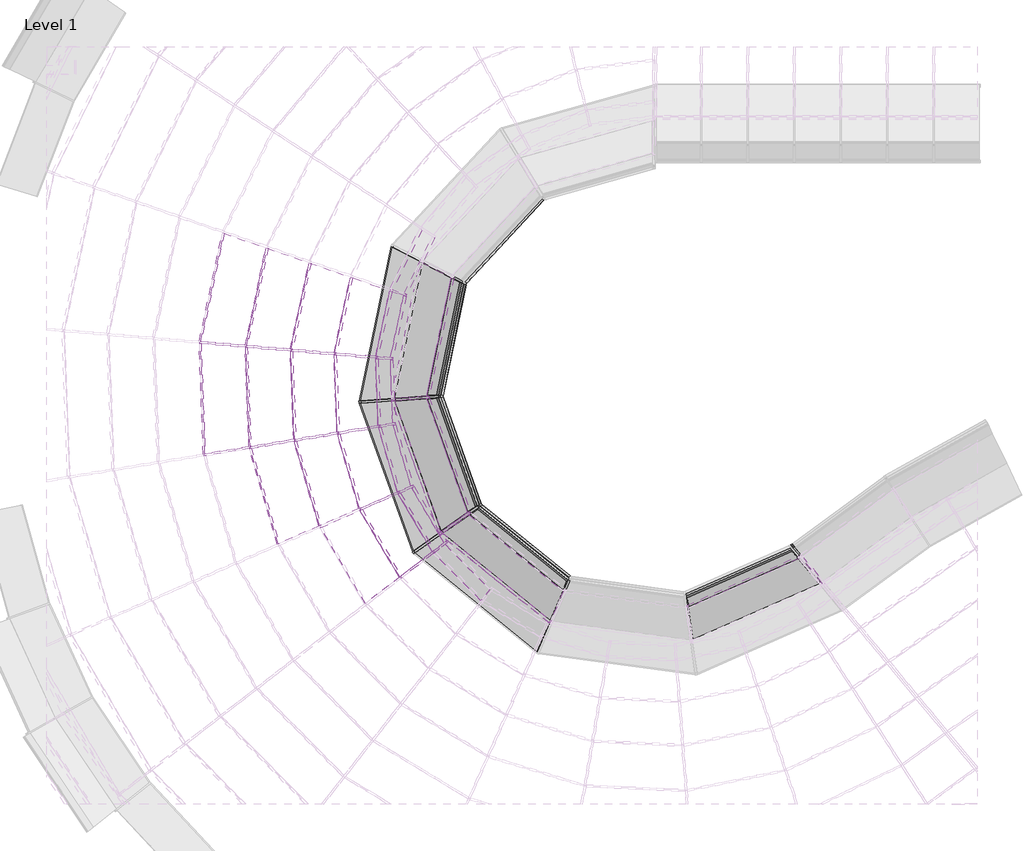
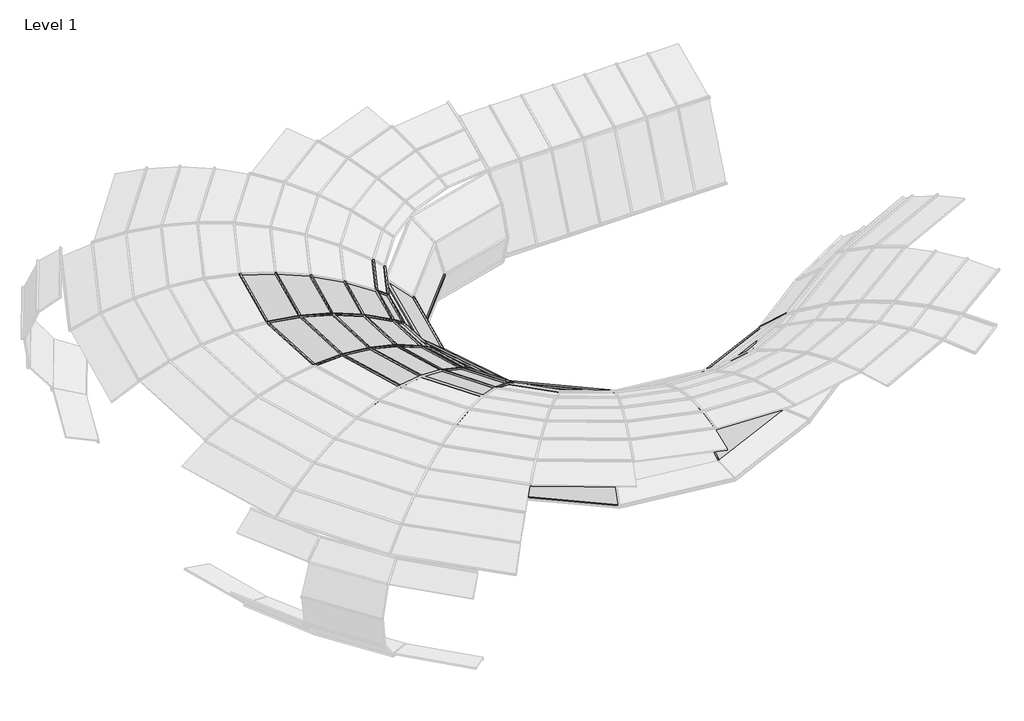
# One storey, part 6 of 23: 68 members, 36 plates.
"""IFC4 building model written with IfcOpenShell, lengths in millimetres."""

from ifc_helpers import new_model, si_unit, origin, place, context, project, spatial, transform, mapped, element, save
from components import member_c876edb5, member_782630c7, member_398e5ff5, member_398607d0, member_5ccaa950, member_8174f0e4, member_18f2ae55, member_299080b6, member_cb0bb3a9, member_172ab1ab, member_54499f2f, member_c8b9029b, member_0cd36c09, member_d0a40a1c, member_ff9adfd2, member_8c9da58c, member_391bee44, member_01ebdf2a, member_d6b8231b, member_c947e835, member_77008461, member_264a49eb, system_panel_glazed_9f229a92, system_panel_glazed_a07c5774, system_panel_glazed_4fd85c75, system_panel_glazed_1256fb3b, system_panel_glazed_de823024, system_panel_glazed_b0e446d2, system_panel_glazed_ac948568, system_panel_glazed_688557e5, system_panel_glazed_4c871569, system_panel_glazed_08c7efc5

model = new_model("IFC4")

# Units and contexts
model_context = context("Model", 3, world=origin())
ifc_project = project(units=[si_unit("LENGTHUNIT", "METRE", prefix="MILLI")], contexts=[model_context])

# Site, building, storey
site = spatial("IfcSite", under=ifc_project)
building = spatial("IfcBuilding", under=site)
storey = spatial("IfcBuildingStorey", under=building, Name="Level 1", Elevation=0.0)

# Members
placement = place(None, origin())
member_shape = member_c876edb5(model_context)
element("IfcMember", 1, ObjectType="Rectangular Mullion : 1\" Square", at=placement, inside=storey, context=model_context, shape_type="MappedRepresentation", body=[
    mapped(member_shape, transform((-14677.9959205, -925.1409597, 2676.0506073), x_axis=(0.9418970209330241, -0.2000671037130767, -0.26982059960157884), y_axis=(0.2639323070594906, -0.056061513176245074, 0.9629106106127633), z_axis=(-0.20777328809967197, -0.9781770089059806, 0.0))),
])
element("IfcMember", 2, ObjectType="Rectangular Mullion : 1\" Square", at=placement, inside=storey, context=model_context, shape_type="MappedRepresentation", body=[
    mapped(member_shape, transform((-14635.9413521, -2105.5336551, 2676.0506073), x_axis=(0.9622064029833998, 0.03681958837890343, -0.26982059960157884), y_axis=(0.2696232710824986, 0.01031734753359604, 0.9629106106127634), z_axis=(0.03823780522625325, -0.9992686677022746, 0.0))),
])
element("IfcMember", 3, ObjectType="Rectangular Mullion : 1\" Square", at=placement, inside=storey, context=model_context, shape_type="MappedRepresentation", body=[
    mapped(member_shape, transform((-14305.9433988, -3239.6398462, 2676.0506073), x_axis=(0.9238536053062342, 0.2714615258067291, -0.2698205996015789), y_axis=(0.2588762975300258, 0.07606719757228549, 0.9629106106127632), z_axis=(0.2819176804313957, -0.9594385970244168, 0.0))),
])
member_2_shape = member_782630c7(model_context)
element("IfcMember", 4, ObjectType="Rectangular Mullion : 1\" Square", at=placement, inside=storey, context=model_context, shape_type="MappedRepresentation", body=[
    mapped(member_2_shape, transform((-14104.2887069, -974.3275091, 2475.91846), x_axis=(0.9040281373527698, -0.19202342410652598, -0.3819163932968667), y_axis=(0.3735818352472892, -0.07935202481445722, 0.9241968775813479), z_axis=(-0.20777328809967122, -0.9781770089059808, 0.0))),
])
element("IfcMember", 5, ObjectType="Rectangular Mullion : 1\" Square", at=placement, inside=storey, context=model_context, shape_type="MappedRepresentation", body=[
    mapped(member_2_shape, transform((-14067.6706277, -2012.6484174, 2475.91846), x_axis=(0.9235209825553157, 0.03533926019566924, -0.3819163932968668), y_axis=(0.3816370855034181, 0.014603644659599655, 0.924196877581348), z_axis=(0.03823780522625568, -0.9992686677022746, 0.0))),
])
element("IfcMember", 6, ObjectType="Rectangular Mullion : 1\" Square", at=placement, inside=storey, context=model_context, shape_type="MappedRepresentation", body=[
    mapped(member_2_shape, transform((-13777.7545362, -3010.3456923, 2475.91846), x_axis=(0.886710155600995, 0.2605474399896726, -0.3819163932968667), y_axis=(0.3664253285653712, 0.10766898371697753, 0.9241968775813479), z_axis=(0.2819176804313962, -0.9594385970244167, 0.0))),
])
element("IfcMember", 7, ObjectType="Rectangular Mullion : 1\" Square", at=placement, inside=storey, context=model_context, shape_type="MappedRepresentation", body=[
    mapped(member_2_shape, transform((-13252.2155485, -3906.5934062, 2475.91846), x_axis=(0.795839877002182, 0.46987100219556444, -0.38191639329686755), y_axis=(0.328873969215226, 0.19417014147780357, 0.9241968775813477), z_axis=(0.5084100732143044, -0.8611150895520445, 0.0))),
])
member_3_shape = member_398e5ff5(model_context)
element("IfcMember", 8, ObjectType="Rectangular Mullion : 1\" Square", at=placement, inside=storey, context=model_context, shape_type="MappedRepresentation", body=[
    mapped(member_3_shape, transform((-13367.598738, -137.81555, 2208.6526723), x_axis=(0.7829440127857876, -0.3848351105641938, -0.48877460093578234), y_axis=(0.4386505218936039, -0.21560688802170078, 0.8724101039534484), z_axis=(-0.4411172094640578, -0.8974495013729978, 0.0))),
])
element("IfcMember", 9, ObjectType="Rectangular Mullion : 1\" Square", at=placement, inside=storey, context=model_context, shape_type="MappedRepresentation", body=[
    mapped(member_3_shape, transform((-13558.4033696, -1021.1287616, 2208.6526723), x_axis=(0.8533715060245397, -0.18126351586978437, -0.4887746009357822), y_axis=(0.4781080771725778, -0.10155430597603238, 0.8724101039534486), z_axis=(-0.20777328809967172, -0.9781770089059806, 0.0))),
])
element("IfcMember", 10, ObjectType="Rectangular Mullion : 1\" Square", at=placement, inside=storey, context=model_context, shape_type="MappedRepresentation", body=[
    mapped(member_3_shape, transform((-13526.9581375, -1924.2676405, 2208.6526723), x_axis=(0.8717720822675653, 0.03335904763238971, -0.4887746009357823), y_axis=(0.48841714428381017, 0.01868966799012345, 0.8724101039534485), z_axis=(0.03823780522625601, -0.9992686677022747, 0.0))),
])
element("IfcMember", 11, ObjectType="Rectangular Mullion : 1\" Square", at=placement, inside=storey, context=model_context, shape_type="MappedRepresentation", body=[
    mapped(member_3_shape, transform((-13275.1801418, -2792.1711363, 2208.6526723), x_axis=(0.8370239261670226, 0.24594783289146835, -0.48877460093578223), y_axis=(0.4689492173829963, 0.13779420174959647, 0.8724101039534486), z_axis=(0.281917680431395, -0.9594385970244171, 0.0))),
])
element("IfcMember", 12, ObjectType="Rectangular Mullion : 1\" Square", at=placement, inside=storey, context=model_context, shape_type="MappedRepresentation", body=[
    mapped(member_3_shape, transform((-12818.4193593, -3571.9263702, 2208.6526723), x_axis=(0.7512455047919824, 0.4435420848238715, -0.48877460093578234), y_axis=(0.42089118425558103, 0.24849793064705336, 0.8724101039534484), z_axis=(0.5084100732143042, -0.8611150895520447, 0.0))),
])
member_4_shape = member_398607d0(model_context)
element("IfcMember", 13, ObjectType="Rectangular Mullion : 1\" Square", at=placement, inside=storey, context=model_context, shape_type="MappedRepresentation", body=[
    mapped(member_4_shape, transform((-15875.9493243, -822.4349228, 2864.5209769), x_axis=(0.9775369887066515, -0.20763734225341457, -0.03616863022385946), y_axis=(0.03537932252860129, -0.007514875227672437, 0.9993457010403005), z_axis=(-0.2077732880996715, -0.9781770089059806, 0.0))),
])
element("IfcMember", 14, ObjectType="Rectangular Mullion : 1\" Square", at=placement, inside=storey, context=model_context, shape_type="MappedRepresentation", body=[
    mapped(member_4_shape, transform((-15822.5428667, -2299.4865703, 2864.5209769), x_axis=(0.9986148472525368, 0.0382127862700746, -0.03616863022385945), y_axis=(0.03614217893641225, 0.001383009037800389, 0.9993457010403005), z_axis=(0.03823780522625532, -0.9992686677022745, 0.0))),
])
member_5_shape = member_5ccaa950(model_context)
element("IfcMember", 15, ObjectType="Rectangular Mullion : 1\" Square", at=placement, inside=storey, context=model_context, shape_type="MappedRepresentation", body=[
    mapped(member_5_shape, transform((-15271.3632702, -874.2688567, 2806.2019711), x_axis=(0.9665017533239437, -0.20529336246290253, -0.15404218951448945), y_axis=(0.1506805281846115, -0.03200585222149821, 0.9880642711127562), z_axis=(-0.20777328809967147, -0.9781770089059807, 0.0))),
])
element("IfcMember", 16, ObjectType="Rectangular Mullion : 1\" Square", at=placement, inside=storey, context=model_context, shape_type="MappedRepresentation", body=[
    mapped(member_5_shape, transform((-15223.6859117, -2201.6019386, 2806.2019711), x_axis=(0.987341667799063, 0.037781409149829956, -0.15404218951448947), y_axis=(0.1539295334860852, 0.005890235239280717, 0.9880642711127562), z_axis=(0.03823780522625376, -0.9992686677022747, 0.0))),
])
element("IfcMember", 17, ObjectType="Rectangular Mullion : 1\" Square", at=placement, inside=storey, context=model_context, shape_type="MappedRepresentation", body=[
    mapped(member_5_shape, transform((-14852.2325478, -3476.791587, 2806.2019711), x_axis=(0.9479869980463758, 0.2785527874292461, -0.15404218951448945), y_axis=(0.1477940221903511, 0.04342721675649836, 0.9880642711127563), z_axis=(0.2819176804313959, -0.9594385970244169, 0.0))),
])
member_6_shape = member_8174f0e4(model_context)
element("IfcMember", 18, ObjectType="Rectangular Mullion : 1\" Square", at=placement, inside=storey, context=model_context, shape_type="MappedRepresentation", body=[
    mapped(member_6_shape, transform((-13172.3085476, -205.3780141, 2085.6089632), x_axis=(0.7695498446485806, -0.3782515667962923, -0.5145082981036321), y_axis=(0.4617452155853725, -0.22695846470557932, 0.8574853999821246), z_axis=(-0.4411172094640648, -0.8974495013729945, 0.0))),
])
element("IfcMember", 19, ObjectType="Rectangular Mullion : 1\" Square", at=placement, inside=storey, context=model_context, shape_type="MappedRepresentation", body=[
    mapped(member_6_shape, transform((-13352.5117699, -1038.7807922, 2085.6089632), x_axis=(0.8387725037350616, -0.1781625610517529, -0.5145082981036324), y_axis=(0.5032801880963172, -0.10690108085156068, 0.8574853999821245), z_axis=(-0.20777328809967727, -0.9781770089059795, 0.0))),
])
element("IfcMember", 20, ObjectType="Rectangular Mullion : 1\" Square", at=placement, inside=storey, context=model_context, shape_type="MappedRepresentation", body=[
    mapped(member_6_shape, transform((-13323.0175809, -1890.9330585, 2085.6089632), x_axis=(0.8568582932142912, 0.03278835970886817, -0.5145082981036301), y_axis=(0.5141320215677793, 0.01967366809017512, 0.8574853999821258), z_axis=(0.038237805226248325, -0.9992686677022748, 0.0))),
])
element("IfcMember", 21, ObjectType="Rectangular Mullion : 1\" Square", at=placement, inside=storey, context=model_context, shape_type="MappedRepresentation", body=[
    mapped(member_6_shape, transform((-13085.6241327, -2709.8822283, 2085.6089632), x_axis=(0.8227045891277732, 0.24174029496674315, -0.5145082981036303), y_axis=(0.49363911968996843, 0.14504898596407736, 0.8574853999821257), z_axis=(0.28191768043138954, -0.9594385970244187, 0.0))),
])
element("IfcMember", 22, ObjectType="Rectangular Mullion : 1\" Square", at=placement, inside=storey, context=model_context, shape_type="MappedRepresentation", body=[
    mapped(member_6_shape, transform((-12654.8044292, -3445.6999877, 2085.6089632), x_axis=(0.7383936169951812, 0.43595421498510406, -0.5145082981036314), y_axis=(0.44305085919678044, 0.26158120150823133, 0.857485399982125), z_axis=(0.5084100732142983, -0.861115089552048, 0.0))),
])
member_7_shape = member_18f2ae55(model_context)
element("IfcMember", 23, ObjectType="Rectangular Mullion : 1\" Square", at=placement, inside=storey, context=model_context, shape_type="MappedRepresentation", body=[
    mapped(member_7_shape, transform((-12352.1152218, -3061.8737136, 1696.6281859), x_axis=(0.5394330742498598, 0.1929929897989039, -0.8196131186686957), y_axis=(0.771710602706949, 0.27609492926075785, 0.5729173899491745), z_axis=(0.33686006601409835, -0.9415547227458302, 0.0))),
])
element("IfcMember", 24, ObjectType="Rectangular Mullion : 1\" Square", at=placement, inside=storey, context=model_context, shape_type="MappedRepresentation", body=[
    mapped(member_7_shape, transform((-8030.7687332, -3659.3363187, 1696.6281859), x_axis=(-0.23030109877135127, 0.5245910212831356, -0.8196131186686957), y_axis=(-0.32946774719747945, 0.7504776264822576, 0.5729173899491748), z_axis=(0.9156486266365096, 0.4019795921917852, 0.0))),
])
element("IfcMember", 25, ObjectType="Rectangular Mullion : 1\" Square", at=placement, inside=storey, context=model_context, shape_type="MappedRepresentation", body=[
    mapped(member_7_shape, transform((-12888.5133297, -1542.9836549, 1696.6281859), x_axis=(0.5611087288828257, -0.11572091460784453, -0.8196131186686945), y_axis=(0.8027196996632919, -0.16554983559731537, 0.5729173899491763), z_axis=(-0.2019853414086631, -0.9793885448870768, 0.0))),
])
member_8_shape = member_299080b6(model_context)
element("IfcMember", 26, ObjectType="Rectangular Mullion : 1\" Square", at=placement, inside=storey, context=model_context, shape_type="MappedRepresentation", body=[
    mapped(member_8_shape, transform((-12391.173045, -52.2187002, 1116.1918244), x_axis=(0.020016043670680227, -0.018659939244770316, -0.9996255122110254), y_axis=(0.7311768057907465, -0.6816389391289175, 0.027364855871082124), z_axis=(-0.6818943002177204, -0.7314507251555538, 0.0))),
])
element("IfcMember", 27, ObjectType="Rectangular Mullion : 1\" Square", at=placement, inside=storey, context=model_context, shape_type="MappedRepresentation", body=[
    mapped(member_8_shape, transform((-12702.6759388, -1529.9354992, 1116.1918244), x_axis=(0.026800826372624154, -0.005527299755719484, -0.9996255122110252), y_axis=(0.9790217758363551, -0.20190970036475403, 0.027364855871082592), z_axis=(-0.20198534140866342, -0.9793885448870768, 0.0))),
])
element("IfcMember", 28, ObjectType="Rectangular Mullion : 1\" Square", at=placement, inside=storey, context=model_context, shape_type="MappedRepresentation", body=[
    mapped(member_8_shape, transform((-12200.1764927, -2954.0756951, 1116.1918244), x_axis=(0.025765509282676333, 0.009218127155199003, -0.9996255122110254), y_axis=(0.9412021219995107, 0.33673391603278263, 0.02736485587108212), z_axis=(0.3368600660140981, -0.9415547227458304, 0.0))),
])
element("IfcMember", 29, ObjectType="Rectangular Mullion : 1\" Square", at=placement, inside=storey, context=model_context, shape_type="MappedRepresentation", body=[
    mapped(member_8_shape, transform((-11030.296895, -3909.0954425, 1116.1918244), x_axis=(0.017212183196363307, 0.02127383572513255, -0.9996255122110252), y_axis=(0.6287530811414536, 0.7771233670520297, 0.02736485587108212), z_axis=(0.7774144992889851, -0.6289886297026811, 0.0))),
])
member_9_shape = member_cb0bb3a9(model_context)
element("IfcMember", 30, ObjectType="Rectangular Mullion : 1\" Square", at=placement, inside=storey, context=model_context, shape_type="MappedRepresentation", body=[
    mapped(member_9_shape, transform((-13304.6485568, -1572.2016569, 113.4427618), x_axis=(-0.8822854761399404, 0.181959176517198, -0.4341234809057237), y_axis=(0.42517556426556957, -0.08768657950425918, -0.9008533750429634), z_axis=(-0.20198534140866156, -0.9793885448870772, 0.0))),
])
element("IfcMember", 31, ObjectType="Rectangular Mullion : 1\" Square", at=placement, inside=storey, context=model_context, shape_type="MappedRepresentation", body=[
    mapped(member_9_shape, transform((-12692.3430806, -3303.2597593, 113.4427618), x_axis=(-0.8482027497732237, -0.3034615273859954, -0.434123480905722), y_axis=(0.40875101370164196, 0.14623886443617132, -0.9008533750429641), z_axis=(0.3368600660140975, -0.9415547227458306, 0.0))),
])
member_10_shape = member_172ab1ab(model_context)
element("IfcMember", 32, ObjectType="Rectangular Mullion : 1\" Square", at=placement, inside=storey, context=model_context, shape_type="MappedRepresentation", body=[
    mapped(member_10_shape, transform((-13787.0408851, -1606.0717526, 0.0), x_axis=(-0.9515524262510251, 0.1962445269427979, -0.23671938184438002), y_axis=(0.2318402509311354, -0.047813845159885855, -0.9715780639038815), z_axis=(-0.2019853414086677, -0.9793885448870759, 0.0))),
])
element("IfcMember", 33, ObjectType="Rectangular Mullion : 1\" Square", at=placement, inside=storey, context=model_context, shape_type="MappedRepresentation", body=[
    mapped(member_10_shape, transform((-13086.74206, -3583.0793202, 0.0), x_axis=(-0.9147939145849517, -0.3272858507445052, -0.23671938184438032), y_axis=(0.22288425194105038, 0.07974130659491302, -0.9715780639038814), z_axis=(0.3368600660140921, -0.9415547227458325, 0.0))),
])
member_11_shape = member_54499f2f(model_context)
element("IfcMember", 34, ObjectType="Rectangular Mullion : 1\" Square", at=placement, inside=storey, context=model_context, shape_type="MappedRepresentation", body=[
    mapped(member_11_shape, transform((-12857.6188357, -1540.8144673, 526.7119632), x_axis=(-0.5173007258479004, 0.10668611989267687, -0.8491278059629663), y_axis=(0.8316260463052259, -0.17151136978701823, -0.5281874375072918), z_axis=(-0.20198534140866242, -0.979388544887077, 0.0))),
])
element("IfcMember", 35, ObjectType="Rectangular Mullion : 1\" Square", at=placement, inside=storey, context=model_context, shape_type="MappedRepresentation", body=[
    mapped(member_11_shape, transform((-12326.856203, -3043.952857, 526.7119632), x_axis=(-0.4973173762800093, -0.17792525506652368, -0.8491278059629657), y_axis=(0.7995002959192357, 0.2860372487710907, -0.5281874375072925), z_axis=(0.33686006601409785, -0.9415547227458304, 0.0))),
])
member_12_shape = member_c8b9029b(model_context)
element("IfcMember", 36, ObjectType="Rectangular Mullion : 1\" Square", at=placement, inside=storey, context=model_context, shape_type="MappedRepresentation", body=[
    mapped(member_12_shape, transform((-13355.015511, -1600.2543072, 2085.6089632), x_axis=(-0.7136183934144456, -0.25531127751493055, 0.6523533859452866), y_axis=(0.614226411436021, 0.21975180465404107, 0.7579149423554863), z_axis=(-0.336860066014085, 0.9415547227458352, 0.0))),
])
element("IfcMember", 37, ObjectType="Rectangular Mullion : 1\" Square", at=placement, inside=storey, context=model_context, shape_type="MappedRepresentation", body=[
    mapped(member_12_shape, transform((-12720.7717512, -3353.4154364, 2085.6089632), x_axis=(-0.47671988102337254, -0.5892140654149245, 0.6523533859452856), y_axis=(0.4103228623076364, 0.5071489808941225, 0.7579149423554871), z_axis=(-0.7774144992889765, 0.628988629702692, 0.0))),
])
member_13_shape = member_0cd36c09(model_context)
element("IfcMember", 38, ObjectType="Rectangular Mullion : 1\" Square", at=placement, inside=storey, context=model_context, shape_type="MappedRepresentation", body=[
    mapped(member_13_shape, transform((-15878.5880451, -834.8577708, 2864.5209769), x_axis=(-0.08542121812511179, -0.9963449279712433, 0.0), y_axis=(0.09531798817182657, -0.008172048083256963, 0.9954133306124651), z_axis=(-0.991775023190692, 0.0850294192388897, 0.09566766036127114))),
])
element("IfcMember", 39, ObjectType="Rectangular Mullion : 1\" Square", at=placement, inside=storey, context=model_context, shape_type="MappedRepresentation", body=[
    mapped(member_13_shape, transform((-15274.0019909, -886.6917047, 2806.2019711), x_axis=(-0.08542121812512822, -0.996344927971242, 0.0), y_axis=(0.21272252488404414, -0.018237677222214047, 0.9769424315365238), z_axis=(-0.9733716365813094, 0.08345161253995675, 0.21350289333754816))),
])
element("IfcMember", 40, ObjectType="Rectangular Mullion : 1\" Square", at=placement, inside=storey, context=model_context, shape_type="MappedRepresentation", body=[
    mapped(member_13_shape, transform((-14680.6346413, -937.5638077, 2676.0506073), x_axis=(-0.0854212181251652, -0.9963449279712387, 0.0), y_axis=(0.3271008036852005, -0.028043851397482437, 0.9445732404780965), z_axis=(-0.9411207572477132, 0.08068659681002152, 0.3283007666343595))),
])
element("IfcMember", 41, ObjectType="Rectangular Mullion : 1\" Square", at=placement, inside=storey, context=model_context, shape_type="MappedRepresentation", body=[
    mapped(member_13_shape, transform((-15223.2002916, -2214.2926507, 2806.2019711), x_axis=(0.16131178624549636, -0.9869034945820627, 0.0), y_axis=(0.21070675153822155, 0.03444053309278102, 0.9769424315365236), z_axis=(-0.9641478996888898, -0.1575923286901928, 0.2135028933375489))),
])
element("IfcMember", 42, ObjectType="Rectangular Mullion : 1\" Square", at=placement, inside=storey, context=model_context, shape_type="MappedRepresentation", body=[
    mapped(member_13_shape, transform((-14635.455732, -2118.2243671, 2676.0506073), x_axis=(0.16131178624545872, -0.9869034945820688, 0.0), y_axis=(0.3240011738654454, 0.05295878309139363, 0.9445732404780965), z_axis=(-0.9322026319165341, -0.15237079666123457, 0.32830076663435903))),
])
member_14_shape = member_d0a40a1c(model_context)
element("IfcMember", 43, ObjectType="Rectangular Mullion : 1\" Square", at=placement, inside=storey, context=model_context, shape_type="MappedRepresentation", body=[
    mapped(member_14_shape, transform((-14106.9274277, -986.7503571, 2475.91846), x_axis=(-0.08542121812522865, -0.9963449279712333, 0.0), y_axis=(0.43682564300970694, -0.03745106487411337, 0.8987662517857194), z_axis=(-0.895481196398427, 0.07677370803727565, 0.4384281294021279))),
])
element("IfcMember", 44, ObjectType="Rectangular Mullion : 1\" Square", at=placement, inside=storey, context=model_context, shape_type="MappedRepresentation", body=[
    mapped(member_14_shape, transform((-14067.1850075, -2025.3391295, 2475.91846), x_axis=(0.16131178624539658, -0.9869034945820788, 0.0), y_axis=(0.43268625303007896, 0.07072362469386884, 0.8987662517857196), z_axis=(-0.8869955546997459, -0.14498158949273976, 0.4384281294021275))),
])
element("IfcMember", 45, ObjectType="Rectangular Mullion : 1\" Square", at=placement, inside=storey, context=model_context, shape_type="MappedRepresentation", body=[
    mapped(member_14_shape, transform((-13774.1741816, -3022.5305624, 2475.91846), x_axis=(0.39821020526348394, -0.9172941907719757, 0.0), y_axis=(0.4021675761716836, 0.1745865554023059, 0.8987662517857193), z_axis=(-0.8244330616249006, -0.3578978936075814, 0.4384281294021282))),
])
element("IfcMember", 46, ObjectType="Rectangular Mullion : 1\" Square", at=placement, inside=storey, context=model_context, shape_type="MappedRepresentation", body=[
    mapped(member_14_shape, transform((-13245.7587406, -3917.5295678, 2475.91846), x_axis=(0.6108312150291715, -0.7917608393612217, 0.0), y_axis=(0.3471302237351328, 0.2678055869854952, 0.8987662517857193), z_axis=(-0.7116079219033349, -0.5489944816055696, 0.4384281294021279))),
])
member_15_shape = member_ff9adfd2(model_context)
element("IfcMember", 47, ObjectType="Rectangular Mullion : 1\" Square", at=placement, inside=storey, context=model_context, shape_type="MappedRepresentation", body=[
    mapped(member_15_shape, transform((-13373.2009265, -149.2131586, 2208.6526723), x_axis=(-0.32694640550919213, -0.9450428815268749, 0.0), y_axis=(0.48348906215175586, -0.16726755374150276, 0.8592205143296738), z_axis=(-0.8120002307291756, 0.2809190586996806, 0.5116054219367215))),
])
element("IfcMember", 48, ObjectType="Rectangular Mullion : 1\" Square", at=placement, inside=storey, context=model_context, shape_type="MappedRepresentation", body=[
    mapped(member_15_shape, transform((-13561.0420903, -1033.5516096, 2208.6526723), x_axis=(-0.08542121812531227, -0.9963449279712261, 0.0), y_axis=(0.5097354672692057, -0.043701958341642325, 0.8592205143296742), z_axis=(-0.8560800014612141, 0.07339566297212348, 0.5116054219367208))),
])
element("IfcMember", 49, ObjectType="Rectangular Mullion : 1\" Square", at=placement, inside=storey, context=model_context, shape_type="MappedRepresentation", body=[
    mapped(member_15_shape, transform((-13526.4725174, -1936.9583525, 2208.6526723), x_axis=(0.16131178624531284, -0.9869034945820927, 0.0), y_axis=(0.5049051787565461, 0.08252798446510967, 0.8592205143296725), z_axis=(-0.8479677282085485, -0.13860239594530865, 0.5116054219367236))),
])
element("IfcMember", 50, ObjectType="Rectangular Mullion : 1\" Square", at=placement, inside=storey, context=model_context, shape_type="MappedRepresentation", body=[
    mapped(member_15_shape, transform((-13271.5997873, -2804.3560065, 2208.6526723), x_axis=(0.39821020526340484, -0.9172941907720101, 0.0), y_axis=(0.4692926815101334, 0.20372650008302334, 0.8592205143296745), z_axis=(-0.7881579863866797, -0.34215037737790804, 0.5116054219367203))),
])
element("IfcMember", 51, ObjectType="Rectangular Mullion : 1\" Square", at=placement, inside=storey, context=model_context, shape_type="MappedRepresentation", body=[
    mapped(member_15_shape, transform((-12811.9625514, -3582.8625318, 2208.6526723), x_axis=(0.6108312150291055, -0.7917608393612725, 0.0), y_axis=(0.405069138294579, 0.3125045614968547, 0.8592205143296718), z_axis=(-0.6802971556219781, -0.5248387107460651, 0.5116054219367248))),
])
element("IfcMember", 52, ObjectType="Rectangular Mullion : 1\" Square", at=placement, inside=storey, context=model_context, shape_type="MappedRepresentation", body=[
    mapped(member_13_shape, transform((-15822.0572465, -2312.1772824, 2864.5209769), x_axis=(0.1613117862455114, -0.9869034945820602, 0.0), y_axis=(0.09441474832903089, 0.015432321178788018, 0.995413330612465), z_axis=(-0.9823768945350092, -0.16057190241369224, 0.09566766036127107))),
])
member_16_shape = member_8c9da58c(model_context)
element("IfcMember", 53, ObjectType="Rectangular Mullion : 1\" Square", at=placement, inside=storey, context=model_context, shape_type="MappedRepresentation", body=[
    mapped(member_16_shape, transform((-12399.8331026, -61.5081244, 1116.1918244), x_axis=(-0.45899792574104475, -0.888437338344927, 0.0), y_axis=(0.8591140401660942, -0.4438484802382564, -0.254797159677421), z_axis=(0.22637131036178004, -0.11695136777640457, 0.9669945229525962))),
])
element("IfcMember", 54, ObjectType="Rectangular Mullion : 1\" Square", at=placement, inside=storey, context=model_context, shape_type="MappedRepresentation", body=[
    mapped(member_16_shape, transform((-12891.0785435, -1555.4218894, 1696.6281859), x_axis=(0.070040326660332, -0.9975441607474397, 0.0), y_axis=(0.9498210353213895, 0.06668955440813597, 0.30560187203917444), z_axis=(-0.30485136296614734, -0.02140445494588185, 0.952159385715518))),
])
element("IfcMember", 55, ObjectType="Rectangular Mullion : 1\" Square", at=placement, inside=storey, context=model_context, shape_type="MappedRepresentation", body=[
    mapped(member_16_shape, transform((-12705.2411526, -1542.3737337, 1116.1918244), x_axis=(0.07004032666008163, -0.9975441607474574, 0.0), y_axis=(0.9646197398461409, 0.06772861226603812, -0.25479715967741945), z_axis=(0.2541714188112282, 0.01784607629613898, 0.9669945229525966))),
])
element("IfcMember", 56, ObjectType="Rectangular Mullion : 1\" Square", at=placement, inside=storey, context=model_context, shape_type="MappedRepresentation", body=[
    mapped(member_16_shape, transform((-12347.837099, -3073.8314586, 1696.6281859), x_axis=(0.578641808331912, -0.8155817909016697, 0.0), y_axis=(0.7765638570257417, 0.5509592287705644, 0.3056018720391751), z_axis=(-0.249243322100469, -0.17683401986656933, 0.9521593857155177))),
])
element("IfcMember", 57, ObjectType="Rectangular Mullion : 1\" Square", at=placement, inside=storey, context=model_context, shape_type="MappedRepresentation", body=[
    mapped(member_16_shape, transform((-12195.8983698, -2966.03344, 1116.1918244), x_axis=(0.5786418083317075, -0.8155817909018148, 0.0), y_axis=(0.7886631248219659, 0.5595434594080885, -0.2547971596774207), z_axis=(0.20780792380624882, 0.14743628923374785, 0.9669945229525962))),
])
element("IfcMember", 58, ObjectType="Rectangular Mullion : 1\" Square", at=placement, inside=storey, context=model_context, shape_type="MappedRepresentation", body=[
    mapped(member_16_shape, transform((-11020.4237309, -3917.0835981, 1116.1918244), x_axis=(0.9184038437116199, -0.39564425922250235, 0.0), y_axis=(0.3825858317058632, 0.8880914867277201, -0.25479715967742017), z_axis=(0.10080903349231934, 0.23400669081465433, 0.9669945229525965))),
])
member_17_shape = member_391bee44(model_context)
element("IfcMember", 59, ObjectType="Rectangular Mullion : 1\" Square", at=placement, inside=storey, context=model_context, shape_type="MappedRepresentation", body=[
    mapped(member_17_shape, transform((-8038.7859914, -3630.2893738, 526.7119632), x_axis=(0.7730505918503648, 0.6343443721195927, 0.0), y_axis=(-0.4300442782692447, 0.5240780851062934, -0.7351218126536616), z_axis=(-0.4663203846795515, 0.568286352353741, 0.6779350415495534))),
])
element("IfcMember", 60, ObjectType="Rectangular Mullion : 1\" Square", at=placement, inside=storey, context=model_context, shape_type="MappedRepresentation", body=[
    mapped(member_17_shape, transform((-12860.1840496, -1553.2527018, 526.7119632), x_axis=(0.07004032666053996, -0.9975441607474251, 0.0), y_axis=(0.6762701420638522, 0.047482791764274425, -0.7351218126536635), z_axis=(0.7333164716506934, 0.05148817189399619, 0.6779350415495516))),
])
element("IfcMember", 61, ObjectType="Rectangular Mullion : 1\" Square", at=placement, inside=storey, context=model_context, shape_type="MappedRepresentation", body=[
    mapped(member_17_shape, transform((-12322.5780802, -3055.910602, 526.7119632), x_axis=(0.5786418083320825, -0.8155817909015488, 0.0), y_axis=(0.5529114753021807, 0.3922815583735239, -0.7351218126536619), z_axis=(0.599551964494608, 0.4253722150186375, 0.6779350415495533))),
])
member_18_shape = member_01ebdf2a(model_context)
element("IfcMember", 62, ObjectType="Rectangular Mullion : 1\" Square", at=placement, inside=storey, context=model_context, shape_type="MappedRepresentation", body=[
    mapped(member_18_shape, transform((-13307.2137707, -1584.6398914, 113.4427618), x_axis=(0.07004032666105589, -0.9975441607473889, 0.0), y_axis=(0.22782836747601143, 0.015996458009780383, -0.9735698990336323), z_axis=(0.9711789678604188, 0.06818915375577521, 0.22838925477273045))),
])
element("IfcMember", 63, ObjectType="Rectangular Mullion : 1\" Square", at=placement, inside=storey, context=model_context, shape_type="MappedRepresentation", body=[
    mapped(member_18_shape, transform((-12688.0649577, -3315.2175042, 113.4427618), x_axis=(0.578641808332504, -0.8155817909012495, 0.0), y_axis=(0.18627011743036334, 0.13215557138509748, -0.9735698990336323), z_axis=(0.7940258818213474, 0.5633482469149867, 0.22838925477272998))),
])
member_19_shape = member_d6b8231b(model_context)
element("IfcMember", 64, ObjectType="Rectangular Mullion : 1\" Square", at=placement, inside=storey, context=model_context, shape_type="MappedRepresentation", body=[
    mapped(member_19_shape, transform((-12730.6449153, -3345.4272808, 2085.6089632), x_axis=(0.5786418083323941, -0.8155817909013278, 0.0), y_axis=(0.5204160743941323, 0.3692266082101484, 0.7699602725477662), z_axis=(-0.6279655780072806, -0.44553120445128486, 0.6380918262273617))),
])
element("IfcMember", 65, ObjectType="Rectangular Mullion : 1\" Square", at=placement, inside=storey, context=model_context, shape_type="MappedRepresentation", body=[
    mapped(member_19_shape, transform((-13359.2936338, -1588.2965622, 2085.6089632), x_axis=(0.07004032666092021, -0.9975441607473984, 0.0), y_axis=(0.6365247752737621, 0.04469215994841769, 0.7699602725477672), z_axis=(-0.7680693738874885, -0.05392826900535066, 0.6380918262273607))),
])
member_20_shape = member_c947e835(model_context)
element("IfcMember", 66, ObjectType="Rectangular Mullion : 1\" Square", at=placement, inside=storey, context=model_context, shape_type="MappedRepresentation", body=[
    mapped(member_20_shape, transform((-8006.4137076, -3643.7293495, 1696.6281859), x_axis=(-0.7847540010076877, -0.6190879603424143, 0.029853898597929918), y_axis=(-0.3773462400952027, 0.5154243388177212, 0.7693812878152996), z_axis=(-0.49170211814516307, 0.5925097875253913, -0.6380918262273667))),
])
member_21_shape = member_77008461(model_context)
element("IfcMember", 67, ObjectType="Rectangular Mullion : 1\" Square", at=placement, inside=storey, context=model_context, shape_type="MappedRepresentation", body=[
    mapped(member_21_shape, transform((-8125.3829594, -3500.3692876, 1116.1918244), x_axis=(-0.8033943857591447, -0.5951851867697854, 0.01766506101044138), y_axis=(-0.5625568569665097, 0.768407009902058, 0.3050908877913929), z_axis=(-0.19515953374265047, 0.23517070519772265, -0.9521593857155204))),
])
member_22_shape = member_264a49eb(model_context)
element("IfcMember", 68, ObjectType="Rectangular Mullion : 1\" Square", at=placement, inside=storey, context=model_context, shape_type="MappedRepresentation", body=[
    mapped(member_22_shape, transform((-8026.1917233, -3619.8964892, 526.7119632), x_axis=(-0.8044559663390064, -0.5938239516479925, -0.014957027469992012), y_axis=(-0.5712918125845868, 0.7803382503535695, -0.25435777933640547), z_axis=(0.1627152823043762, -0.1960748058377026, -0.9669945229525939))),
])

# Plates
system_panel_glazed_shape = system_panel_glazed_9f229a92(model_context)
element("IfcPlate", 69, ObjectType="System Panel : Glazed", at=placement, inside=storey, context=model_context, shape_type="MappedRepresentation", body=[
    mapped(system_panel_glazed_shape, transform((-15712.6369636, -114.4154084, 2863.296718), x_axis=(-0.20777328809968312, -0.9781770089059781, 0.0), y_axis=(-0.09429463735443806, 0.020028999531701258, -0.9953428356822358), z_axis=(0.973621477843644, -0.20680565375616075, -0.09639833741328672))),
])
element("IfcPlate", 70, ObjectType="System Panel : Glazed", at=placement, inside=storey, context=model_context, shape_type="MappedRepresentation", body=[
    mapped(system_panel_glazed_shape, transform((-15837.6910364, -1573.0341681, 2863.296718), x_axis=(0.03823780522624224, -0.9992686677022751, 0.0), y_axis=(-0.09632783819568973, -0.0036860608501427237, -0.9953428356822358), z_axis=(0.9946149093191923, 0.038059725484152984, -0.09639833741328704))),
])
system_panel_glazed_2_shape = system_panel_glazed_a07c5774(model_context)
element("IfcPlate", 71, ObjectType="System Panel : Glazed", at=placement, inside=storey, context=model_context, shape_type="MappedRepresentation", body=[
    mapped(system_panel_glazed_2_shape, transform((-15123.8489165, -239.4791008, 2803.4705448), x_axis=(-0.20777328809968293, -0.9781770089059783, 0.0), y_axis=(-0.21037940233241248, 0.04468641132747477, -0.9765979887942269), z_axis=(0.9552856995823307, -0.20291097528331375, -0.2150729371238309))),
])
element("IfcPlate", 72, ObjectType="System Panel : Glazed", at=placement, inside=storey, context=model_context, shape_type="MappedRepresentation", body=[
    mapped(system_panel_glazed_2_shape, transform((-15236.2074174, -1550.0179221, 2803.4705448), x_axis=(0.03823780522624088, -0.9992686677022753, 0.0), y_axis=(-0.21491564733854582, -0.008223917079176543, -0.9765979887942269), z_axis=(0.9758837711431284, 0.03734296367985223, -0.215072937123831))),
])
element("IfcPlate", 73, ObjectType="System Panel : Glazed", at=placement, inside=storey, context=model_context, shape_type="MappedRepresentation", body=[
    mapped(system_panel_glazed_2_shape, transform((-15024.0265227, -2848.1379869, 2803.4705448), x_axis=(0.28191768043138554, -0.9594385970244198, 0.0), y_axis=(-0.20634927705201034, -0.060632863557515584, -0.9765979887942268), z_axis=(0.936985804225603, 0.2753202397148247, -0.2150729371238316))),
])
system_panel_glazed_3_shape = system_panel_glazed_4fd85c75(model_context)
element("IfcPlate", 74, ObjectType="System Panel : Glazed", at=placement, inside=storey, context=model_context, shape_type="MappedRepresentation", body=[
    mapped(system_panel_glazed_3_shape, transform((-14546.1654963, -362.1840741, 2671.8525455), x_axis=(-0.20777328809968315, -0.9781770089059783, 0.0), y_axis=(-0.32334232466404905, 0.06868071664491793, -0.943786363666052), z_axis=(0.9231901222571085, -0.19609359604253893, -0.3305560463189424))),
])
element("IfcPlate", 75, ObjectType="System Panel : Glazed", at=placement, inside=storey, context=model_context, shape_type="MappedRepresentation", body=[
    mapped(system_panel_glazed_3_shape, transform((-14646.0678656, -1527.4357658, 2671.8525455), x_axis=(0.03823780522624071, -0.9992686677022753, 0.0), y_axis=(-0.3303143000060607, -0.012639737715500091, -0.9437863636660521), z_axis=(0.9430961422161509, 0.03608831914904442, -0.33055604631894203))),
])
element("IfcPlate", 76, ObjectType="System Panel : Glazed", at=placement, inside=storey, context=model_context, shape_type="MappedRepresentation", body=[
    mapped(system_panel_glazed_3_shape, transform((-14457.4094738, -2681.645452, 2671.8525455), x_axis=(0.28191768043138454, -0.9594385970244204, 0.0), y_axis=(-0.3171482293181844, -0.09318959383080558, -0.9437863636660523), z_axis=(0.9055050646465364, 0.2660700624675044, -0.33055604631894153))),
])
element("IfcPlate", 77, ObjectType="System Panel : Glazed", at=placement, inside=storey, context=model_context, shape_type="MappedRepresentation", body=[
    mapped(system_panel_glazed_3_shape, transform((-13991.692128, -3754.44522, 2671.8525455), x_axis=(0.5084100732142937, -0.861115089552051, 0.0), y_axis=(-0.284646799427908, -0.16805802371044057, -0.943786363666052), z_axis=(0.8127086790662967, 0.47983049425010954, -0.33055604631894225))),
])
system_panel_glazed_4_shape = system_panel_glazed_1256fb3b(model_context)
element("IfcPlate", 78, ObjectType="System Panel : Glazed", at=placement, inside=storey, context=model_context, shape_type="MappedRepresentation", body=[
    mapped(system_panel_glazed_4_shape, transform((-13987.8042955, -480.7848402, 2470.3158265), x_axis=(-0.20777328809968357, -0.9781770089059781, 0.0), y_axis=(-0.4315249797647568, 0.09165965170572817, -0.8974322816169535), z_axis=(0.8778476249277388, -0.18646245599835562, -0.44115224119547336))),
])
element("IfcPlate", 79, ObjectType="System Panel : Glazed", at=placement, inside=storey, context=model_context, shape_type="MappedRepresentation", body=[
    mapped(system_panel_glazed_4_shape, transform((-14075.6671629, -1505.6089321, 2470.3158265), x_axis=(0.038237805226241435, -0.9992686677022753, 0.0), y_axis=(-0.44082961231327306, -0.016868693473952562, -0.8974322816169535), z_axis=(0.8967759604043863, 0.034315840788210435, -0.441152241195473))),
])
element("IfcPlate", 80, ObjectType="System Panel : Glazed", at=placement, inside=storey, context=model_context, shape_type="MappedRepresentation", body=[
    mapped(system_panel_glazed_4_shape, transform((-13909.7444987, -2520.7217202, 2470.3158265), x_axis=(0.28191768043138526, -0.9594385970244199, 0.0), y_axis=(-0.42325848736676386, -0.12436861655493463, -0.8974322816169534), z_axis=(0.8610311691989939, 0.2530020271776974, -0.4411522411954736))),
])
element("IfcPlate", 81, ObjectType="System Panel : Glazed", at=placement, inside=storey, context=model_context, shape_type="MappedRepresentation", body=[
    mapped(system_panel_glazed_4_shape, transform((-13500.1519966, -3464.2355173, 2470.3158265), x_axis=(0.5084100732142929, -0.8611150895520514, 0.0), y_axis=(-0.379882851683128, -0.2242862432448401, -0.8974322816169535), z_axis=(0.7727924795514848, 0.4562636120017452, -0.4411522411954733))),
])
system_panel_glazed_5_shape = system_panel_glazed_de823024(model_context)
element("IfcPlate", 82, ObjectType="System Panel : Glazed", at=placement, inside=storey, context=model_context, shape_type="MappedRepresentation", body=[
    mapped(system_panel_glazed_5_shape, transform((-13456.4690976, -593.6450486, 2202.1184169), x_axis=(-0.2077732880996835, -0.978177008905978, 0.0), y_axis=(-0.5032801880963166, 0.10690108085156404, -0.8574853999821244), z_axis=(0.8387725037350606, -0.1781625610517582, -0.5145082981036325))),
])
element("IfcPlate", 83, ObjectType="System Panel : Glazed", at=placement, inside=storey, context=model_context, shape_type="MappedRepresentation", body=[
    mapped(system_panel_glazed_5_shape, transform((-13532.8752035, -1484.8385689, 2202.1184169), x_axis=(0.038237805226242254, -0.9992686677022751, 0.0), y_axis=(-0.5141320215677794, -0.01967366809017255, -0.8574853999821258), z_axis=(0.8568582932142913, 0.032788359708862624, -0.51450829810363))),
])
element("IfcPlate", 84, ObjectType="System Panel : Glazed", at=placement, inside=storey, context=model_context, shape_type="MappedRepresentation", body=[
    mapped(system_panel_glazed_5_shape, transform((-13388.5878041, -2367.5870778, 2202.1184169), x_axis=(0.28191768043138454, -0.9594385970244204, 0.0), y_axis=(-0.4936391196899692, -0.14504898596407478, -0.8574853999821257), z_axis=(0.8227045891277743, 0.24174029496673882, -0.5145082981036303))),
])
element("IfcPlate", 85, ObjectType="System Panel : Glazed", at=placement, inside=storey, context=model_context, shape_type="MappedRepresentation", body=[
    mapped(system_panel_glazed_5_shape, transform((-13032.4035704, -3188.0726506, 2202.1184169), x_axis=(0.5084100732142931, -0.8611150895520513, 0.0), y_axis=(-0.4430508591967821, -0.26158120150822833, -0.8574853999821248), z_axis=(0.7383936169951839, 0.43595421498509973, -0.5145082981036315))),
])
element("IfcPlate", 86, ObjectType="System Panel : Glazed", at=placement, inside=storey, context=model_context, shape_type="MappedRepresentation", body=[
    mapped(system_panel_glazed_5_shape, transform((-12486.0377431, -3896.2733047, 2202.1184169), x_axis=(0.7039065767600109, -0.710292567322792, 0.0), y_axis=(-0.3654514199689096, -0.3621657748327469, -0.8574853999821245), z_axis=(0.6090655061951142, 0.6035896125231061, -0.5145082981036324))),
])
system_panel_glazed_6_shape = system_panel_glazed_b0e446d2(model_context)
element("IfcPlate", 87, ObjectType="System Panel : Glazed", at=placement, inside=storey, context=model_context, shape_type="MappedRepresentation", body=[
    mapped(system_panel_glazed_6_shape, transform((-13151.9667253, -678.3168653, 2069.0391872), x_axis=(-0.20198534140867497, -0.9793885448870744, 0.0), y_axis=(-0.6389074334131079, 0.1317658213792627, -0.7579149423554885), z_axis=(0.7422932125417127, -0.15308770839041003, -0.6523533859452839))),
])
element("IfcPlate", 88, ObjectType="System Panel : Glazed", at=placement, inside=storey, context=model_context, shape_type="MappedRepresentation", body=[
    mapped(system_panel_glazed_6_shape, transform((-13026.8433674, -2460.3770151, 2069.0391872), x_axis=(0.3368600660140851, -0.9415547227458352, 0.0), y_axis=(-0.6142264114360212, -0.21975180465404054, -0.7579149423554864), z_axis=(0.7136183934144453, 0.2553112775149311, -0.6523533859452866))),
])
element("IfcPlate", 89, ObjectType="System Panel : Glazed", at=placement, inside=storey, context=model_context, shape_type="MappedRepresentation", body=[
    mapped(system_panel_glazed_6_shape, transform((-11993.1302264, -3917.3709664, 2069.0391872), x_axis=(0.7774144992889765, -0.6289886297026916, 0.0), y_axis=(-0.4103228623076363, -0.5071489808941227, -0.7579149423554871), z_axis=(0.4767198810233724, 0.5892140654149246, -0.6523533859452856))),
])
system_panel_glazed_7_shape = system_panel_glazed_ac948568(model_context)
element("IfcPlate", 90, ObjectType="System Panel : Glazed", at=placement, inside=storey, context=model_context, shape_type="MappedRepresentation", body=[
    mapped(system_panel_glazed_7_shape, transform((-12724.5390827, -766.4679048, 1684.4943593), x_axis=(-0.20198534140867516, -0.9793885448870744, 0.0), y_axis=(-0.9357268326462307, 0.19298071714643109, -0.29525198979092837), z_axis=(0.28916641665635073, -0.05963657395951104, -0.9554194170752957))),
])
element("IfcPlate", 91, ObjectType="System Panel : Glazed", at=placement, inside=storey, context=model_context, shape_type="MappedRepresentation", body=[
    mapped(system_panel_glazed_7_shape, transform((-12615.9272732, -2313.3635497, 1684.4943593), x_axis=(0.3368600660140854, -0.941554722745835, 0.0), y_axis=(-0.8995796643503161, -0.3218426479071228, -0.2952519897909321), z_axis=(0.27799590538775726, 0.09945860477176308, -0.9554194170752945))),
])
element("IfcPlate", 92, ObjectType="System Panel : Glazed", at=placement, inside=storey, context=model_context, shape_type="MappedRepresentation", body=[
    mapped(system_panel_glazed_7_shape, transform((-11718.6251502, -3578.0894336, 1684.4943593), x_axis=(0.7774144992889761, -0.6289886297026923, 0.0), y_axis=(-0.6009479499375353, -0.7427569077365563, -0.29525198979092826), z_axis=(0.18571014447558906, 0.22953317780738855, -0.9554194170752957))),
])
element("IfcPlate", 93, ObjectType="System Panel : Glazed", at=placement, inside=storey, context=model_context, shape_type="MappedRepresentation", body=[
    mapped(system_panel_glazed_7_shape, transform((-8758.9631942, -3974.9263865, 1684.4943593), x_axis=(0.9156486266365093, 0.40197959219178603, 0.0), y_axis=(0.3840591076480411, -0.8748284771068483, -0.29525198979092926), z_axis=(-0.11868527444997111, 0.27034707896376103, -0.9554194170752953))),
])
system_panel_glazed_8_shape = system_panel_glazed_688557e5(model_context)
element("IfcPlate", 94, ObjectType="System Panel : Glazed", at=placement, inside=storey, context=model_context, shape_type="MappedRepresentation", body=[
    mapped(system_panel_glazed_8_shape, transform((-12555.5958253, -801.3101149, 1103.8818104), x_axis=(-0.2019853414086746, -0.9793885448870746, 0.0), y_axis=(-0.9493139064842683, 0.1957828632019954, 0.24591091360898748), z_axis=(-0.24084233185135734, 0.04967039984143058, -0.9692924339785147))),
])
element("IfcPlate", 95, ObjectType="System Panel : Glazed", at=placement, inside=storey, context=model_context, shape_type="MappedRepresentation", body=[
    mapped(system_panel_glazed_8_shape, transform((-12453.5103012, -2255.255624, 1103.8818104), x_axis=(0.33686006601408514, -0.941554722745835, 0.0), y_axis=(-0.9126418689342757, -0.32651591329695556, 0.24591091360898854), z_axis=(-0.23153858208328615, -0.08283756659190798, -0.9692924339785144))),
])
element("IfcPlate", 96, ObjectType="System Panel : Glazed", at=placement, inside=storey, context=model_context, shape_type="MappedRepresentation", body=[
    mapped(system_panel_glazed_8_shape, transform((-11610.125425, -3443.9864379, 1103.8818104), x_axis=(0.7774144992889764, -0.6289886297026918, 0.0), y_axis=(-0.6096739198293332, -0.7535419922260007, 0.24591091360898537), z_axis=(-0.15467516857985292, -0.19117470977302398, -0.9692924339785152))),
])
element("IfcPlate", 97, ObjectType="System Panel : Glazed", at=placement, inside=storey, context=model_context, shape_type="MappedRepresentation", body=[
    mapped(system_panel_glazed_8_shape, transform((-8828.304154, -3816.9781826, 1103.8818104), x_axis=(0.9156486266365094, 0.4019795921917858, 0.0), y_axis=(0.3896357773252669, -0.8875312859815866, 0.24591091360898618), z_axis=(0.09885116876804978, -0.22516799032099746, -0.9692924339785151))),
])
system_panel_glazed_9_shape = system_panel_glazed_4c871569(model_context)
element("IfcPlate", 98, ObjectType="System Panel : Glazed", at=placement, inside=storey, context=model_context, shape_type="MappedRepresentation", body=[
    mapped(system_panel_glazed_9_shape, transform((-12707.9891879, -769.8810917, 517.9272991), x_axis=(-0.20198534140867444, -0.9793885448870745, 0.0), y_axis=(-0.6774487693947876, 0.13971443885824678, 0.7221793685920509), z_axis=(-0.7072942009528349, 0.1458696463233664, -0.6917058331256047))),
])
element("IfcPlate", 99, ObjectType="System Panel : Glazed", at=placement, inside=storey, context=model_context, shape_type="MappedRepresentation", body=[
    mapped(system_panel_glazed_9_shape, transform((-12600.0167016, -2307.6712239, 517.9272991), x_axis=(0.33686006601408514, -0.9415547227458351, 0.0), y_axis=(-0.6512788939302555, -0.23300807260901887, 0.722179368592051), z_axis=(-0.6799713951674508, -0.24327338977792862, -0.6917058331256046))),
])
element("IfcPlate", 100, ObjectType="System Panel : Glazed", at=placement, inside=storey, context=model_context, shape_type="MappedRepresentation", body=[
    mapped(system_panel_glazed_9_shape, transform((-11707.9963801, -3564.9525348, 517.9272991), x_axis=(0.7774144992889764, -0.628988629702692, 0.0), y_axis=(-0.4350751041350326, -0.5377421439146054, 0.7221793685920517), z_axis=(-0.45424261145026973, -0.5614327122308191, -0.6917058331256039))),
])
element("IfcPlate", 101, ObjectType="System Panel : Glazed", at=placement, inside=storey, context=model_context, shape_type="MappedRepresentation", body=[
    mapped(system_panel_glazed_9_shape, transform((-8765.7559221, -3959.453581, 517.9272991), x_axis=(0.9156486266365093, 0.40197959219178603, 0.0), y_axis=(0.27805162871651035, -0.6333594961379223, 0.7221793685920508), z_axis=(0.29030136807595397, -0.6612625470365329, -0.6917058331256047))),
])
system_panel_glazed_10_shape = system_panel_glazed_08c7efc5(model_context)
element("IfcPlate", 102, ObjectType="System Panel : Glazed", at=placement, inside=storey, context=model_context, shape_type="MappedRepresentation", body=[
    mapped(system_panel_glazed_10_shape, transform((-13133.6739542, -682.0894963, 110.4364257), x_axis=(-0.2019853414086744, -0.9793885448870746, 0.0), y_axis=(-0.23184025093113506, 0.04781384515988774, 0.9715780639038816), z_axis=(-0.9515524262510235, 0.19624452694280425, -0.23671938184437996))),
])
element("IfcPlate", 103, ObjectType="System Panel : Glazed", at=placement, inside=storey, context=model_context, shape_type="MappedRepresentation", body=[
    mapped(system_panel_glazed_10_shape, transform((-13009.2572469, -2454.0852281, 110.4364257), x_axis=(0.33686006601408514, -0.9415547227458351, 0.0), y_axis=(-0.2228842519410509, -0.07974130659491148, 0.9715780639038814), z_axis=(-0.9147939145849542, -0.32728585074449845, -0.23671938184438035))),
])
element("IfcPlate", 104, ObjectType="System Panel : Glazed", at=placement, inside=storey, context=model_context, shape_type="MappedRepresentation", body=[
    mapped(system_panel_glazed_10_shape, transform((-11981.3821362, -3902.8506155, 110.4364257), x_axis=(0.7774144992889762, -0.6289886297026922, 0.0), y_axis=(-0.14889379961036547, -0.18402907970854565, 0.9715780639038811), z_axis=(-0.6111115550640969, -0.7553188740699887, -0.23671938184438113))),
])

save(model, "model.ifc")
